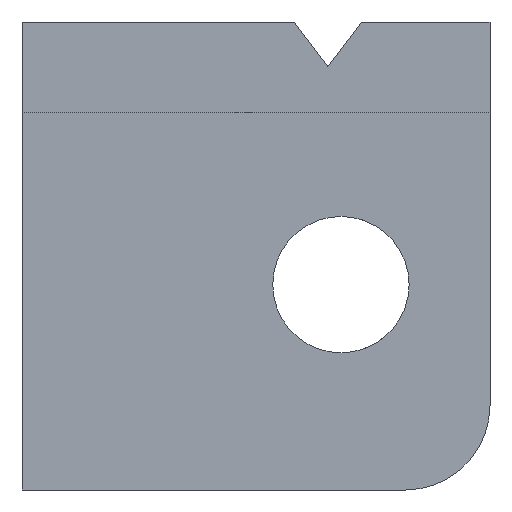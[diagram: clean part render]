
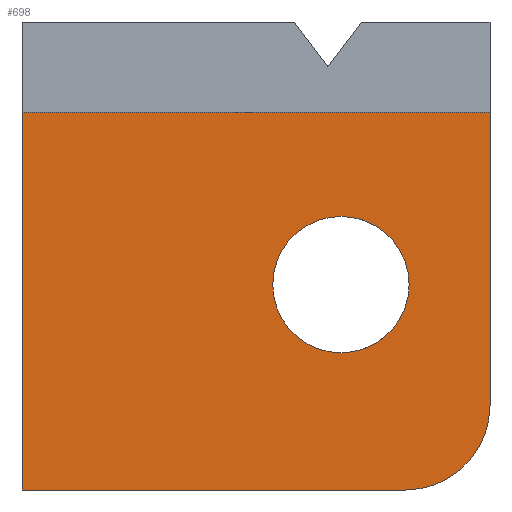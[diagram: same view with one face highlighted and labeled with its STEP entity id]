
A CAD part, left-side view. The second image highlights one B-rep face of the part: STEP entity #698.
In plain terms, the highlighted planar face has unit normal (-1, 0, 0).
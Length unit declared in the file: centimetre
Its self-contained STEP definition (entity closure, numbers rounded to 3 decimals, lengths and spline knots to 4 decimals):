
#24 = DIRECTION ( 'NONE',  ( 0., 1., 0. ) ) ;
#28 = DIRECTION ( 'NONE',  ( 0., 0., -1. ) ) ;
#34 = DIRECTION ( 'NONE',  ( -1., 0., 0. ) ) ;
#35 = ORIENTED_EDGE ( 'NONE', *, *, #765, .F. ) ;
#64 = VECTOR ( 'NONE', #24, 100. ) ;
#79 = CIRCLE ( 'NONE', #689, 145.6578 ) ;
#85 = VERTEX_POINT ( 'NONE', #371 ) ;
#86 = DIRECTION ( 'NONE',  ( 1., 0., 0. ) ) ;
#100 = DIRECTION ( 'NONE',  ( 0., -1., 0. ) ) ;
#102 = FACE_BOUND ( 'NONE', #134, .T. ) ;
#126 = ORIENTED_EDGE ( 'NONE', *, *, #257, .F. ) ;
#134 = EDGE_LOOP ( 'NONE', ( #545, #35 ) ) ;
#183 = ORIENTED_EDGE ( 'NONE', *, *, #672, .T. ) ;
#226 = EDGE_CURVE ( 'NONE', #375, #260, #388, .T. ) ;
#255 = CARTESIAN_POINT ( 'NONE',  ( 0., 0., 1000. ) ) ;
#257 = EDGE_CURVE ( 'NONE', #518, #569, #691, .T. ) ;
#260 = VERTEX_POINT ( 'NONE', #617 ) ;
#264 = DIRECTION ( 'NONE',  ( 0., 0., -1. ) ) ;
#274 = CARTESIAN_POINT ( 'NONE',  ( 0., 318.4798, 584.5155 ) ) ;
#281 = VECTOR ( 'NONE', #100, 100. ) ;
#282 = CIRCLE ( 'NONE', #587, 181.0207 ) ;
#307 = ORIENTED_EDGE ( 'NONE', *, *, #527, .T. ) ;
#360 = CARTESIAN_POINT ( 'NONE',  ( 0., 318.4798, 438.8577 ) ) ;
#371 = CARTESIAN_POINT ( 'NONE',  ( 0., 318.4798, 293.1999 ) ) ;
#375 = VERTEX_POINT ( 'NONE', #547 ) ;
#388 = LINE ( 'NONE', #404, #281 ) ;
#390 = LINE ( 'NONE', #667, #64 ) ;
#391 = CARTESIAN_POINT ( 'NONE',  ( 0., 181.0207, 181.0207 ) ) ;
#404 = CARTESIAN_POINT ( 'NONE',  ( 0., 1000., 0. ) ) ;
#423 = DIRECTION ( 'NONE',  ( -1., 0., 0. ) ) ;
#427 = EDGE_LOOP ( 'NONE', ( #126, #183, #307, #700, #716 ) ) ;
#428 = CARTESIAN_POINT ( 'NONE',  ( 0., 1000., 807.1713 ) ) ;
#430 = DIRECTION ( 'NONE',  ( 0., 0., -1. ) ) ;
#487 = CARTESIAN_POINT ( 'NONE',  ( 0., 0., 807.1713 ) ) ;
#506 = LINE ( 'NONE', #726, #648 ) ;
#507 = EDGE_CURVE ( 'NONE', #260, #569, #282, .T. ) ;
#518 = VERTEX_POINT ( 'NONE', #487 ) ;
#527 = EDGE_CURVE ( 'NONE', #737, #375, #506, .T. ) ;
#530 = AXIS2_PLACEMENT_3D ( 'NONE', #736, #86, #28 ) ;
#531 = DIRECTION ( 'NONE',  ( -1., 0., 0. ) ) ;
#545 = ORIENTED_EDGE ( 'NONE', *, *, #666, .F. ) ;
#547 = CARTESIAN_POINT ( 'NONE',  ( 0., 1000., 0. ) ) ;
#569 = VERTEX_POINT ( 'NONE', #797 ) ;
#587 = AXIS2_PLACEMENT_3D ( 'NONE', #391, #34, #430 ) ;
#617 = CARTESIAN_POINT ( 'NONE',  ( 0., 181.0207, 0. ) ) ;
#646 = DIRECTION ( 'NONE',  ( 0., 0., -1. ) ) ;
#648 = VECTOR ( 'NONE', #646, 100. ) ;
#666 = EDGE_CURVE ( 'NONE', #899, #85, #720, .T. ) ;
#667 = CARTESIAN_POINT ( 'NONE',  ( 0., 0., 807.1713 ) ) ;
#672 = EDGE_CURVE ( 'NONE', #518, #737, #390, .T. ) ;
#673 = CARTESIAN_POINT ( 'NONE',  ( 0., 318.4798, 438.8577 ) ) ;
#677 = DIRECTION ( 'NONE',  ( 0., 0., 1. ) ) ;
#689 = AXIS2_PLACEMENT_3D ( 'NONE', #360, #423, #795 ) ;
#691 = LINE ( 'NONE', #255, #878 ) ;
#698 = ADVANCED_FACE ( 'NONE', ( #102, #815 ), #811, .F. ) ;
#700 = ORIENTED_EDGE ( 'NONE', *, *, #226, .T. ) ;
#716 = ORIENTED_EDGE ( 'NONE', *, *, #507, .T. ) ;
#720 = CIRCLE ( 'NONE', #869, 145.6578 ) ;
#726 = CARTESIAN_POINT ( 'NONE',  ( 0., 1000., 1000. ) ) ;
#736 = CARTESIAN_POINT ( 'NONE',  ( 0., 1000., 1000. ) ) ;
#737 = VERTEX_POINT ( 'NONE', #428 ) ;
#765 = EDGE_CURVE ( 'NONE', #85, #899, #79, .T. ) ;
#795 = DIRECTION ( 'NONE',  ( 0., 0., 1. ) ) ;
#797 = CARTESIAN_POINT ( 'NONE',  ( 0., 0., 181.0207 ) ) ;
#811 = PLANE ( 'NONE',  #530 ) ;
#815 = FACE_OUTER_BOUND ( 'NONE', #427, .T. ) ;
#869 = AXIS2_PLACEMENT_3D ( 'NONE', #673, #531, #677 ) ;
#878 = VECTOR ( 'NONE', #264, 100. ) ;
#899 = VERTEX_POINT ( 'NONE', #274 ) ;
